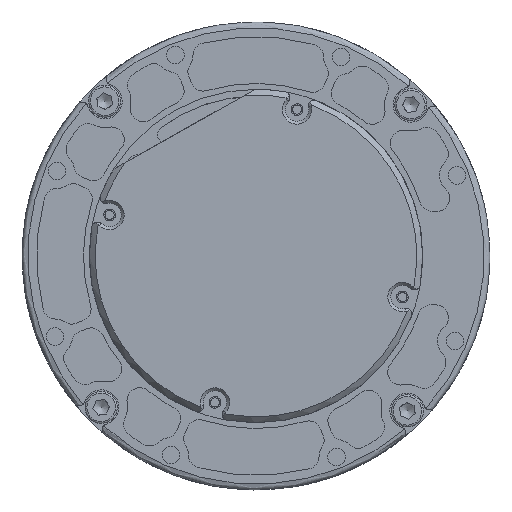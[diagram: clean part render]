
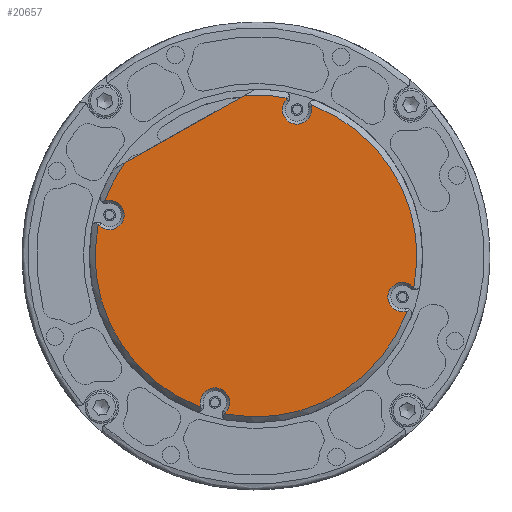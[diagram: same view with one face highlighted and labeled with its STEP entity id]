
A CAD part, left-side view. The second image highlights one B-rep face of the part: STEP entity #20657.
In plain terms, the highlighted planar face has unit normal (-1, 0, 0).
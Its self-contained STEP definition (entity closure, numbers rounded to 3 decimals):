
#807=PLANE('',#23380);
#1923=FACE_OUTER_BOUND('',#3226,.T.);
#3226=EDGE_LOOP('',(#18674,#18675,#18676,#18677,#18678,#18679,#18680,#18681,
#18682,#18683,#18684,#18685,#18686,#18687,#18688,#18689,#18690,#18691));
#4628=LINE('',#36773,#6032);
#6032=VECTOR('',#30026,10.);
#7582=CIRCLE('',#23359,27.5);
#7594=CIRCLE('',#23381,0.5);
#7595=CIRCLE('',#23382,2.5);
#7596=CIRCLE('',#23383,0.5);
#7597=CIRCLE('',#23384,27.5);
#7598=CIRCLE('',#23385,0.5);
#7599=CIRCLE('',#23386,2.5);
#7600=CIRCLE('',#23387,0.5);
#7601=CIRCLE('',#23388,27.5);
#7602=CIRCLE('',#23389,0.5);
#7603=CIRCLE('',#23390,2.5);
#7604=CIRCLE('',#23391,0.5);
#7605=CIRCLE('',#23392,27.5);
#7606=CIRCLE('',#23393,0.5);
#7607=CIRCLE('',#23394,2.5);
#7608=CIRCLE('',#23395,0.5);
#7609=CIRCLE('',#23396,27.5);
#9608=VERTEX_POINT('',#36753);
#9609=VERTEX_POINT('',#36760);
#9612=VERTEX_POINT('',#36772);
#9632=VERTEX_POINT('',#36831);
#9633=VERTEX_POINT('',#36833);
#9634=VERTEX_POINT('',#36835);
#9635=VERTEX_POINT('',#36837);
#9636=VERTEX_POINT('',#36839);
#9637=VERTEX_POINT('',#36841);
#9638=VERTEX_POINT('',#36843);
#9639=VERTEX_POINT('',#36845);
#9640=VERTEX_POINT('',#36847);
#9641=VERTEX_POINT('',#36849);
#9642=VERTEX_POINT('',#36851);
#9643=VERTEX_POINT('',#36853);
#9644=VERTEX_POINT('',#36855);
#9645=VERTEX_POINT('',#36857);
#9646=VERTEX_POINT('',#36859);
#12627=EDGE_CURVE('',#9609,#9608,#7582,.T.);
#12632=EDGE_CURVE('',#9609,#9612,#4628,.T.);
#12661=EDGE_CURVE('',#9608,#9632,#7594,.T.);
#12662=EDGE_CURVE('',#9632,#9633,#7595,.T.);
#12663=EDGE_CURVE('',#9633,#9634,#7596,.T.);
#12664=EDGE_CURVE('',#9634,#9635,#7597,.T.);
#12665=EDGE_CURVE('',#9635,#9636,#7598,.T.);
#12666=EDGE_CURVE('',#9636,#9637,#7599,.T.);
#12667=EDGE_CURVE('',#9637,#9638,#7600,.T.);
#12668=EDGE_CURVE('',#9638,#9639,#7601,.T.);
#12669=EDGE_CURVE('',#9639,#9640,#7602,.T.);
#12670=EDGE_CURVE('',#9640,#9641,#7603,.T.);
#12671=EDGE_CURVE('',#9641,#9642,#7604,.T.);
#12672=EDGE_CURVE('',#9642,#9643,#7605,.T.);
#12673=EDGE_CURVE('',#9643,#9644,#7606,.T.);
#12674=EDGE_CURVE('',#9644,#9645,#7607,.T.);
#12675=EDGE_CURVE('',#9645,#9646,#7608,.T.);
#12676=EDGE_CURVE('',#9646,#9612,#7609,.T.);
#18674=ORIENTED_EDGE('',*,*,#12632,.F.);
#18675=ORIENTED_EDGE('',*,*,#12627,.T.);
#18676=ORIENTED_EDGE('',*,*,#12661,.T.);
#18677=ORIENTED_EDGE('',*,*,#12662,.T.);
#18678=ORIENTED_EDGE('',*,*,#12663,.T.);
#18679=ORIENTED_EDGE('',*,*,#12664,.T.);
#18680=ORIENTED_EDGE('',*,*,#12665,.T.);
#18681=ORIENTED_EDGE('',*,*,#12666,.T.);
#18682=ORIENTED_EDGE('',*,*,#12667,.T.);
#18683=ORIENTED_EDGE('',*,*,#12668,.T.);
#18684=ORIENTED_EDGE('',*,*,#12669,.T.);
#18685=ORIENTED_EDGE('',*,*,#12670,.T.);
#18686=ORIENTED_EDGE('',*,*,#12671,.T.);
#18687=ORIENTED_EDGE('',*,*,#12672,.T.);
#18688=ORIENTED_EDGE('',*,*,#12673,.T.);
#18689=ORIENTED_EDGE('',*,*,#12674,.T.);
#18690=ORIENTED_EDGE('',*,*,#12675,.T.);
#18691=ORIENTED_EDGE('',*,*,#12676,.T.);
#20657=ADVANCED_FACE('',(#1923),#807,.T.);
#23359=AXIS2_PLACEMENT_3D('',#36761,#30017,#30018);
#23380=AXIS2_PLACEMENT_3D('',#36830,#30079,#30080);
#23381=AXIS2_PLACEMENT_3D('',#36832,#30081,#30082);
#23382=AXIS2_PLACEMENT_3D('',#36834,#30083,#30084);
#23383=AXIS2_PLACEMENT_3D('',#36836,#30085,#30086);
#23384=AXIS2_PLACEMENT_3D('',#36838,#30087,#30088);
#23385=AXIS2_PLACEMENT_3D('',#36840,#30089,#30090);
#23386=AXIS2_PLACEMENT_3D('',#36842,#30091,#30092);
#23387=AXIS2_PLACEMENT_3D('',#36844,#30093,#30094);
#23388=AXIS2_PLACEMENT_3D('',#36846,#30095,#30096);
#23389=AXIS2_PLACEMENT_3D('',#36848,#30097,#30098);
#23390=AXIS2_PLACEMENT_3D('',#36850,#30099,#30100);
#23391=AXIS2_PLACEMENT_3D('',#36852,#30101,#30102);
#23392=AXIS2_PLACEMENT_3D('',#36854,#30103,#30104);
#23393=AXIS2_PLACEMENT_3D('',#36856,#30105,#30106);
#23394=AXIS2_PLACEMENT_3D('',#36858,#30107,#30108);
#23395=AXIS2_PLACEMENT_3D('',#36860,#30109,#30110);
#23396=AXIS2_PLACEMENT_3D('',#36861,#30111,#30112);
#30017=DIRECTION('center_axis',(-1.,0.,0.));
#30018=DIRECTION('ref_axis',(0.,0.,-1.));
#30026=DIRECTION('',(0.,-1.,0.));
#30079=DIRECTION('center_axis',(-1.,0.,0.));
#30080=DIRECTION('ref_axis',(0.,0.,1.));
#30081=DIRECTION('center_axis',(-1.,0.,0.));
#30082=DIRECTION('ref_axis',(0.,0.,1.));
#30083=DIRECTION('center_axis',(1.,0.,0.));
#30084=DIRECTION('ref_axis',(0.,0.,1.));
#30085=DIRECTION('center_axis',(-1.,0.,0.));
#30086=DIRECTION('ref_axis',(0.,0.,1.));
#30087=DIRECTION('center_axis',(-1.,0.,0.));
#30088=DIRECTION('ref_axis',(0.,0.,-1.));
#30089=DIRECTION('center_axis',(-1.,0.,0.));
#30090=DIRECTION('ref_axis',(0.,0.,1.));
#30091=DIRECTION('center_axis',(1.,0.,0.));
#30092=DIRECTION('ref_axis',(0.,0.,1.));
#30093=DIRECTION('center_axis',(-1.,0.,0.));
#30094=DIRECTION('ref_axis',(0.,0.,1.));
#30095=DIRECTION('center_axis',(-1.,0.,0.));
#30096=DIRECTION('ref_axis',(0.,0.,-1.));
#30097=DIRECTION('center_axis',(-1.,0.,0.));
#30098=DIRECTION('ref_axis',(0.,0.,1.));
#30099=DIRECTION('center_axis',(1.,0.,0.));
#30100=DIRECTION('ref_axis',(0.,0.,1.));
#30101=DIRECTION('center_axis',(-1.,0.,0.));
#30102=DIRECTION('ref_axis',(0.,0.,1.));
#30103=DIRECTION('center_axis',(-1.,0.,0.));
#30104=DIRECTION('ref_axis',(0.,0.,-1.));
#30105=DIRECTION('center_axis',(-1.,0.,0.));
#30106=DIRECTION('ref_axis',(0.,0.,1.));
#30107=DIRECTION('center_axis',(1.,0.,0.));
#30108=DIRECTION('ref_axis',(0.,0.,1.));
#30109=DIRECTION('center_axis',(-1.,0.,0.));
#30110=DIRECTION('ref_axis',(0.,0.,1.));
#30111=DIRECTION('center_axis',(-1.,0.,0.));
#30112=DIRECTION('ref_axis',(0.,0.,-1.));
#36753=CARTESIAN_POINT('',(951.494,1272.841,20.92));
#36760=CARTESIAN_POINT('',(951.494,1266.663,24.9));
#36761=CARTESIAN_POINT('Origin',(951.494,1254.991,0.));
#36772=CARTESIAN_POINT('',(951.494,1243.319,24.9));
#36773=CARTESIAN_POINT('',(951.494,1277.698,24.9));
#36830=CARTESIAN_POINT('Origin',(951.494,1282.491,0.));
#36831=CARTESIAN_POINT('',(951.494,1272.61,20.765));
#36832=CARTESIAN_POINT('Origin',(951.494,1272.457,21.241));
#36833=CARTESIAN_POINT('',(951.494,1275.756,17.62));
#36834=CARTESIAN_POINT('Origin',(951.494,1273.376,18.385));
#36835=CARTESIAN_POINT('',(951.494,1275.911,17.85));
#36836=CARTESIAN_POINT('Origin',(951.494,1276.232,17.467));
#36837=CARTESIAN_POINT('',(951.494,1275.911,-17.85));
#36838=CARTESIAN_POINT('Origin',(951.494,1254.991,0.));
#36839=CARTESIAN_POINT('',(951.494,1275.756,-17.62));
#36840=CARTESIAN_POINT('Origin',(951.494,1276.232,-17.467));
#36841=CARTESIAN_POINT('',(951.494,1272.61,-20.765));
#36842=CARTESIAN_POINT('Origin',(951.494,1273.376,-18.385));
#36843=CARTESIAN_POINT('',(951.494,1272.841,-20.92));
#36844=CARTESIAN_POINT('Origin',(951.494,1272.457,-21.241));
#36845=CARTESIAN_POINT('',(951.494,1237.141,-20.92));
#36846=CARTESIAN_POINT('Origin',(951.494,1254.991,0.));
#36847=CARTESIAN_POINT('',(951.494,1237.371,-20.765));
#36848=CARTESIAN_POINT('Origin',(951.494,1237.524,-21.241));
#36849=CARTESIAN_POINT('',(951.494,1234.226,-17.62));
#36850=CARTESIAN_POINT('Origin',(951.494,1236.606,-18.385));
#36851=CARTESIAN_POINT('',(951.494,1234.071,-17.85));
#36852=CARTESIAN_POINT('Origin',(951.494,1233.75,-17.467));
#36853=CARTESIAN_POINT('',(951.494,1234.071,17.85));
#36854=CARTESIAN_POINT('Origin',(951.494,1254.991,0.));
#36855=CARTESIAN_POINT('',(951.494,1234.226,17.62));
#36856=CARTESIAN_POINT('Origin',(951.494,1233.75,17.467));
#36857=CARTESIAN_POINT('',(951.494,1237.371,20.765));
#36858=CARTESIAN_POINT('Origin',(951.494,1236.606,18.385));
#36859=CARTESIAN_POINT('',(951.494,1237.141,20.92));
#36860=CARTESIAN_POINT('Origin',(951.494,1237.524,21.241));
#36861=CARTESIAN_POINT('Origin',(951.494,1254.991,0.));
